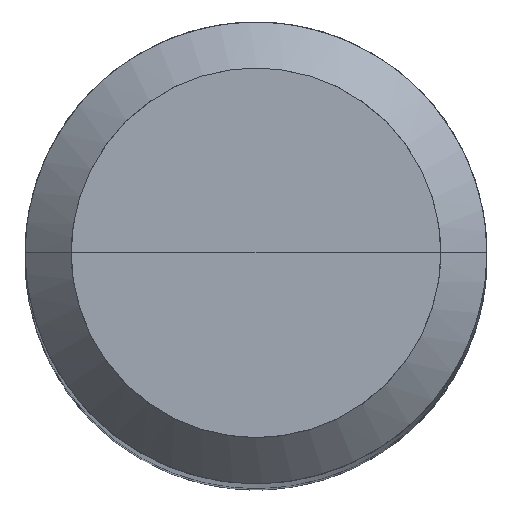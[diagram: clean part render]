
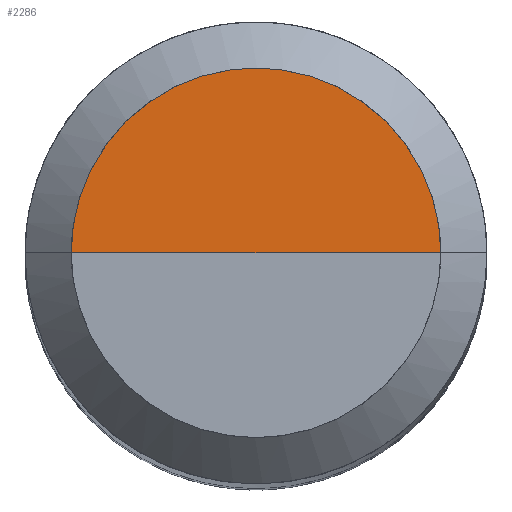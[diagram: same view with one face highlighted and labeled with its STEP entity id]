
A CAD part, top view. The second image highlights one B-rep face of the part: STEP entity #2286.
In plain terms, the highlighted free-form (B-spline) face has degree [1, 2] with [2, 5] control points.
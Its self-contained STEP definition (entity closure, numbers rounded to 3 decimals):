
#2087=CARTESIAN_POINT('',(6.4,0.0,90.0));
#2088=CARTESIAN_POINT('',(6.4,6.4,90.0));
#2089=CARTESIAN_POINT('',(0.0,6.4,90.0));
#2090=CARTESIAN_POINT('',(-6.4,6.4,90.0));
#2091=CARTESIAN_POINT('',(-6.4,0.0,90.0));
#2092=CARTESIAN_POINT('',(0.0,0.0,90.0));
#2271=(
BOUNDED_SURFACE()
B_SPLINE_SURFACE(1,2,(
(#2087,#2088,#2089,#2090,#2091),
(#2092,#2092,#2092,#2092,#2092)
), .UNSPECIFIED.,.F.,.F.,.F.)
B_SPLINE_SURFACE_WITH_KNOTS((2,2),(3,2,3),(
0.0,1.0),(
0.0,0.5,1.0), .UNSPECIFIED.)
GEOMETRIC_REPRESENTATION_ITEM()
RATIONAL_B_SPLINE_SURFACE(((1.0,0.707,1.0,0.707,1.0),
(1.0,0.707,1.0,0.707,1.0)
))
REPRESENTATION_ITEM('')
SURFACE()
);
#2272=(
BOUNDED_CURVE()
B_SPLINE_CURVE(2,(#2091,#2090,#2089,#2088,#2087),.UNSPECIFIED.,.F.,.F.)
B_SPLINE_CURVE_WITH_KNOTS((3,2,3),
(0.0,0.5,1.0),.UNSPECIFIED.)
CURVE()
GEOMETRIC_REPRESENTATION_ITEM()
RATIONAL_B_SPLINE_CURVE((1.0,0.707,1.0,0.707,1.0))
REPRESENTATION_ITEM('')
);
#2273=(
BOUNDED_CURVE()
B_SPLINE_CURVE(1,(#2087,#2092),.UNSPECIFIED.,.F.,.F.)
B_SPLINE_CURVE_WITH_KNOTS((2,2),
(0.0,1.0),.UNSPECIFIED.)
CURVE()
GEOMETRIC_REPRESENTATION_ITEM()
RATIONAL_B_SPLINE_CURVE((1.0,1.0))
REPRESENTATION_ITEM('')
);
#2274=(
BOUNDED_CURVE()
B_SPLINE_CURVE(1,(#2092,#2091),.UNSPECIFIED.,.F.,.F.)
B_SPLINE_CURVE_WITH_KNOTS((2,2),
(0.0,1.0),.UNSPECIFIED.)
CURVE()
GEOMETRIC_REPRESENTATION_ITEM()
RATIONAL_B_SPLINE_CURVE((1.0,1.0))
REPRESENTATION_ITEM('')
);
#2275=VERTEX_POINT('',#2087);
#2276=VERTEX_POINT('',#2091);
#2277=VERTEX_POINT('',#2092);
#2278=EDGE_CURVE('',#2276,#2275,#2272,.T.);
#2279=EDGE_CURVE('',#2275,#2277,#2273,.T.);
#2280=EDGE_CURVE('',#2277,#2276,#2274,.T.);
#2281=ORIENTED_EDGE('',*,*,#2278,.T.);
#2282=ORIENTED_EDGE('',*,*,#2279,.T.);
#2283=ORIENTED_EDGE('',*,*,#2280,.T.);
#2284=EDGE_LOOP('',(#2281,#2282,#2283));
#2285=FACE_OUTER_BOUND('',#2284,.T.);
#2286=ADVANCED_FACE('',(#2285),#2271,.T.);
